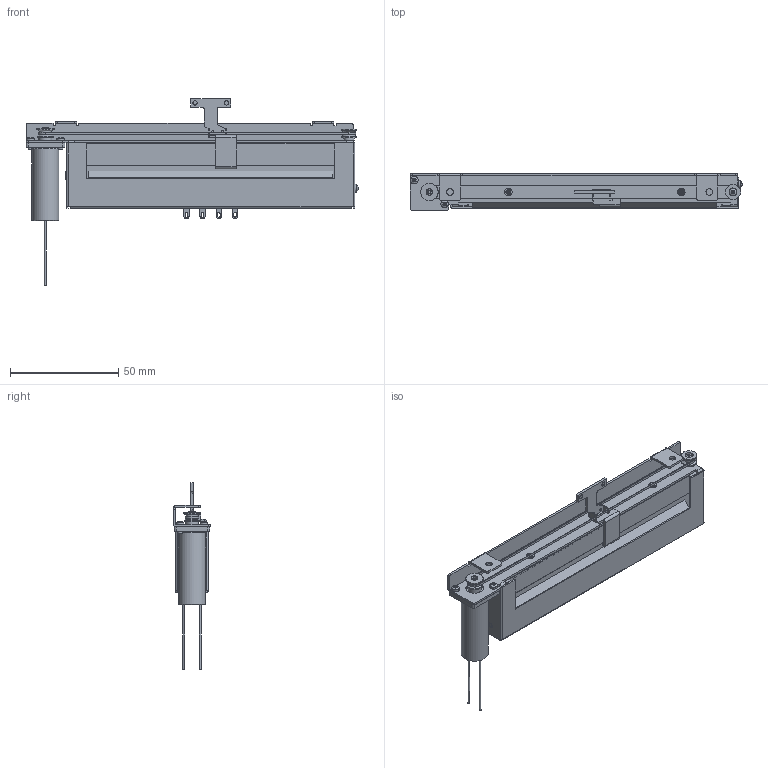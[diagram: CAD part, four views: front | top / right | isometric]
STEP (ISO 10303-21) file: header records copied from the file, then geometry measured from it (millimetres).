
FILE_DESCRIPTION(('FreeCAD Model'),'2;1');
FILE_NAME('Open CASCADE Shape Model','2025-05-15T12:16:35',(''),(''), 'Open CASCADE STEP processor 7.8','FreeCAD','Unknown');
FILE_SCHEMA(('AUTOMOTIVE_DESIGN { 1 0 10303 214 1 1 1 1 }'));
Length unit declared in the file: millimetre
Products named in the file (1): MF-915-J12-L10e5-1CIR
Bounding box: 153.67 x 17 x 86.5 mm (x, y, z)
Volume: 57392 mm3; surface area: 33138.9 mm2
Topology: 1 solids, 9 shells, 742 faces, 1925 edges, 1220 vertices
Faces by surface type: plane 497, cylinder 160, cone 48, bspline 18, torus 10, sphere 6, revolution 3
Full cylindrical faces by diameter (mm): 0.9 x2, 1.1 x2, 1.2 x4, 1.25 x2, 1.46 x1, 1.5 x3, 1.6 x2, 1.9 x2, 2 x14, 2.1 x1, 2.2 x5, 2.4 x2, 2.6 x3, 3 x4, 3.03 x1, 3.2 x2, 3.5 x4, 3.6 x2, 3.7 x1, 4 x5, 4.1 x1, 4.75 x1, 5 x1, 5.38 x1, 6 x1, 7 x3, 8 x1, 8.2 x1, 12 x1, 12.5 x1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
Entity records: 27695 total; most frequent: CARTESIAN_POINT 4137, DIRECTION 3954, ORIENTED_EDGE 3846, EDGE_CURVE 1919, AXIS2_PLACEMENT_3D 1359, LINE 1233, VECTOR 1233, VERTEX_POINT 1220
